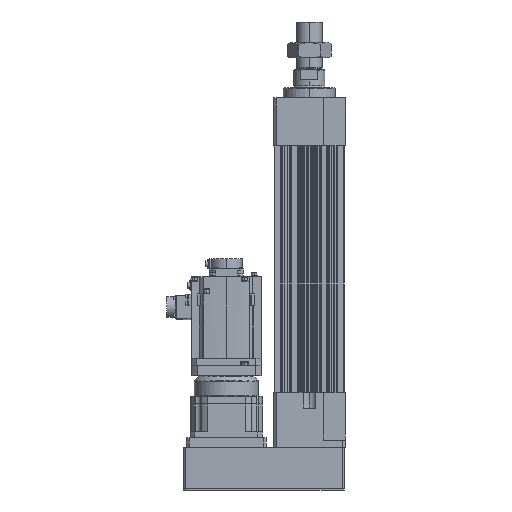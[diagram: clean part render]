
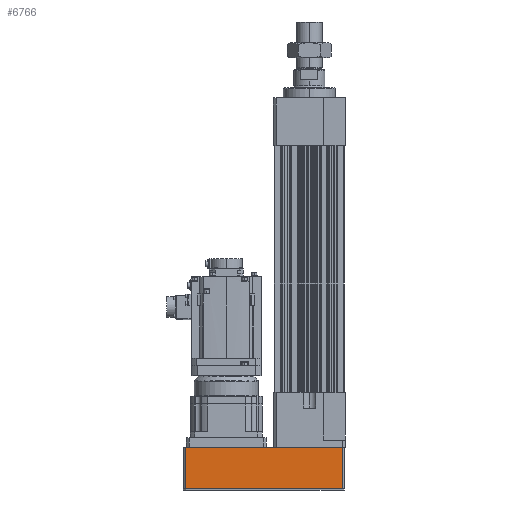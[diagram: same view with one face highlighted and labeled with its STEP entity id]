
A CAD part, left-side view. The second image highlights one B-rep face of the part: STEP entity #6766.
In plain terms, the highlighted planar face has unit normal (-1, 0, 0).
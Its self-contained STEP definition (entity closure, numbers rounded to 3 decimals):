
#171 = LINE ( 'NONE', #44149, #7463 ) ;
#799 = CARTESIAN_POINT ( 'NONE',  ( -88., 88., 104. ) ) ;
#1825 = DIRECTION ( 'NONE',  ( 0., 1., 0. ) ) ;
#2523 = ORIENTED_EDGE ( 'NONE', *, *, #2831, .T. ) ;
#2831 = EDGE_CURVE ( 'NONE', #47036, #26533, #11237, .T. ) ;
#5069 = PLANE ( 'NONE',  #39825 ) ;
#5245 = DIRECTION ( 'NONE',  ( 0., 1., 0. ) ) ;
#6199 = DIRECTION ( 'NONE',  ( 0., 0., 1. ) ) ;
#6250 = CARTESIAN_POINT ( 'NONE',  ( -88., 82., 103.5 ) ) ;
#6766 = ADVANCED_FACE ( 'NONE', ( #41510 ), #5069, .F. ) ;
#7404 = DIRECTION ( 'NONE',  ( 0., 0., -1. ) ) ;
#7463 = VECTOR ( 'NONE', #6199, 1000. ) ;
#7976 = CARTESIAN_POINT ( 'NONE',  ( -88., 82., 0.5 ) ) ;
#9071 = EDGE_CURVE ( 'NONE', #38088, #38973, #171, .T. ) ;
#11026 = EDGE_CURVE ( 'NONE', #38973, #47036, #15369, .T. ) ;
#11237 = LINE ( 'NONE', #45002, #15849 ) ;
#15369 = LINE ( 'NONE', #6250, #27246 ) ;
#15849 = VECTOR ( 'NONE', #7404, 1000. ) ;
#16462 = CARTESIAN_POINT ( 'NONE',  ( -88., 82., 103.5 ) ) ;
#18081 = EDGE_CURVE ( 'NONE', #26533, #38088, #49598, .T. ) ;
#18952 = EDGE_LOOP ( 'NONE', ( #2523, #19216, #39656, #50401 ) ) ;
#19216 = ORIENTED_EDGE ( 'NONE', *, *, #18081, .T. ) ;
#26533 = VERTEX_POINT ( 'NONE', #7976 ) ;
#27246 = VECTOR ( 'NONE', #1825, 1000. ) ;
#30608 = DIRECTION ( 'NONE',  ( 1., 0., 0. ) ) ;
#31239 = CARTESIAN_POINT ( 'NONE',  ( -88., -310., 103.5 ) ) ;
#38088 = VERTEX_POINT ( 'NONE', #44478 ) ;
#38973 = VERTEX_POINT ( 'NONE', #31239 ) ;
#39656 = ORIENTED_EDGE ( 'NONE', *, *, #9071, .T. ) ;
#39825 = AXIS2_PLACEMENT_3D ( 'NONE', #799, #30608, #5245 ) ;
#41510 = FACE_OUTER_BOUND ( 'NONE', #18952, .T. ) ;
#42297 = VECTOR ( 'NONE', #47749, 1000. ) ;
#44149 = CARTESIAN_POINT ( 'NONE',  ( -88., -310., 104. ) ) ;
#44478 = CARTESIAN_POINT ( 'NONE',  ( -88., -310., 0.5 ) ) ;
#45002 = CARTESIAN_POINT ( 'NONE',  ( -88., 82., 104. ) ) ;
#47024 = CARTESIAN_POINT ( 'NONE',  ( -88., 88., 0.5 ) ) ;
#47036 = VERTEX_POINT ( 'NONE', #16462 ) ;
#47749 = DIRECTION ( 'NONE',  ( 0., -1., 0. ) ) ;
#49598 = LINE ( 'NONE', #47024, #42297 ) ;
#50401 = ORIENTED_EDGE ( 'NONE', *, *, #11026, .T. ) ;
